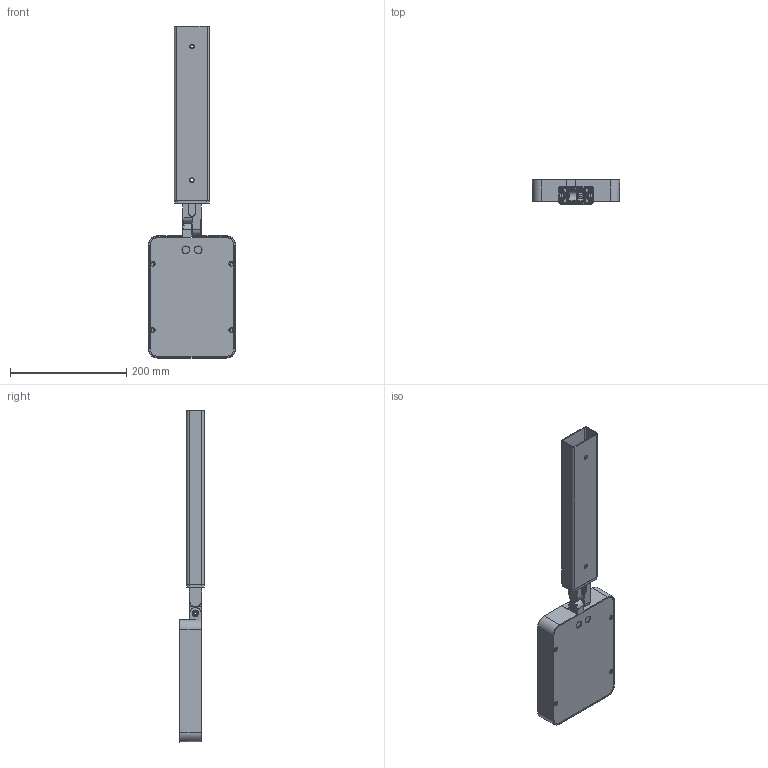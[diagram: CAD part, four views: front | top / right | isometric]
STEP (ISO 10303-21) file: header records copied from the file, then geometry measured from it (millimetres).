
FILE_DESCRIPTION((''),'2;1');
FILE_NAME('TAG210-COB-ASIMM-CITI_SW0009','2025-07-29T09:53:55',('Piccioli'),(''),'CREO PARAMETRIC BY PTC INC, 2025010','CREO PARAMETRIC BY PTC INC, 2025010','');
FILE_SCHEMA(('CONFIG_CONTROL_DESIGN'));
Products named in the file (1): TAG210-COB-ASIMM-CITI_SW0009
Bounding box: 150 x 42 x 570.5 mm (x, y, z)
Surface area: 321961.4 mm2 (no closed solid volume)
Topology: 0 solids, 84 shells, 585 faces, 2760 edges, 2223 vertices
Faces by surface type: plane 200, cylinder 148, cone 116, torus 66, bspline 55
Entity records: 41516 total; most frequent: CARTESIAN_POINT 21004, DIRECTION 4037, ORIENTED_EDGE 3588, EDGE_CURVE 2760, VERTEX_POINT 2223, AXIS2_PLACEMENT_3D 1392, VECTOR 1253, LINE 1253
